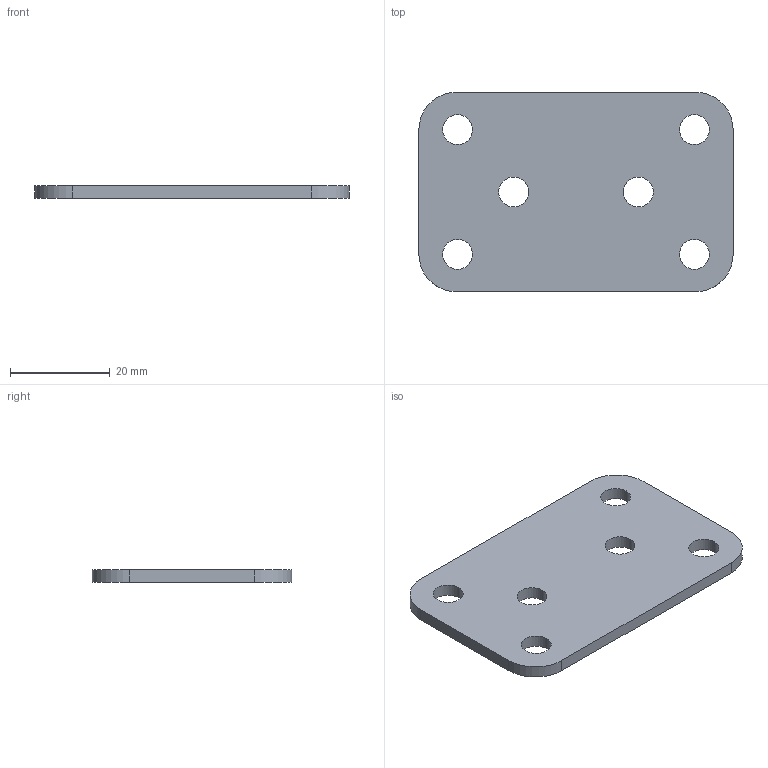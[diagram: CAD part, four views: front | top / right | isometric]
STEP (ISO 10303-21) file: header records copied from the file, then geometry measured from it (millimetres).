
FILE_DESCRIPTION (( 'STEP AP214' ), '1' );
FILE_NAME ('IK 01 00.003 砑僔蠂縺.STEP', '2016-08-01T12:15:55', ( '' ), ( '' ), 'SwSTEP 2.0', 'SolidWorks 2012', '' );
FILE_SCHEMA (( 'AUTOMOTIVE_DESIGN' ));
Length unit declared in the file: millimetre
Products named in the file (1): IK 01 00.003 砑僔蠂縺
Bounding box: 63 x 40 x 2.5 mm (x, y, z)
Volume: 5755.2 mm3; surface area: 5369.7 mm2
Topology: 1 solids, 1 shells, 22 faces, 60 edges, 40 vertices
Faces by surface type: cylinder 16, plane 6
Entity records: 774 total; most frequent: DIRECTION 138, CARTESIAN_POINT 123, ORIENTED_EDGE 120, EDGE_CURVE 60, AXIS2_PLACEMENT_3D 55, VERTEX_POINT 40, EDGE_LOOP 34, CIRCLE 32
